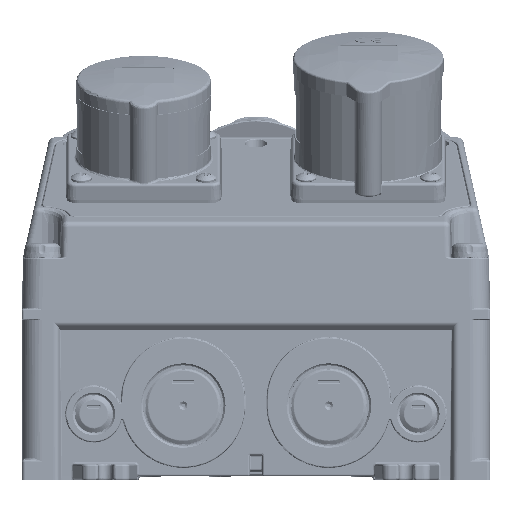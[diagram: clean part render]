
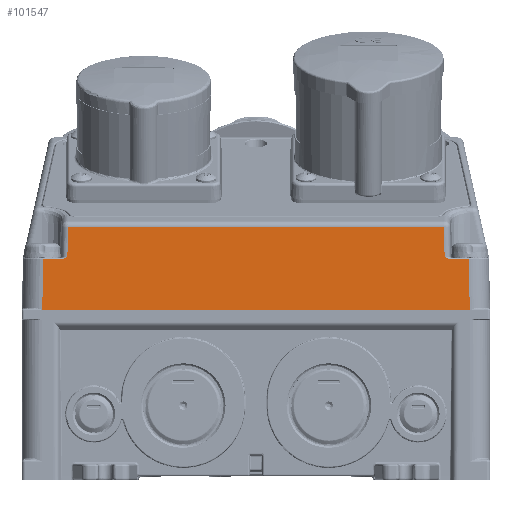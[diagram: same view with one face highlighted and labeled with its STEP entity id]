
A CAD part, front view. The second image highlights one B-rep face of the part: STEP entity #101547.
In plain terms, the highlighted planar face has unit normal (0, -1, 0.018).
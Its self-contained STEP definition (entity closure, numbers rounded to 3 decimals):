
#8586=DIRECTION('',(1.,0.,0.));
#8587=VECTOR('',#8586,223.);
#8588=CARTESIAN_POINT('',(1.,0.,82.));
#8589=LINE('44195',#8588,#8587);
#8757=DIRECTION('',(-0.012,0.017,1.));
#8758=VECTOR('',#8757,0.059);
#8759=CARTESIAN_POINT('',(224.,0.,82.));
#8760=LINE('44237',#8759,#8758);
#8776=CARTESIAN_POINT('',(223.999,0.001,82.059));
#8831=CARTESIAN_POINT('',(215.25,0.001,82.059));
#8842=DIRECTION('',(-1.,0.,0.));
#8843=VECTOR('',#8842,8.749);
#8844=CARTESIAN_POINT('',(223.999,0.001,82.059));
#8845=LINE('44254',#8844,#8843);
#8846=DIRECTION('',(0.017,0.017,1.));
#8847=VECTOR('',#8846,24.457);
#8848=CARTESIAN_POINT('',(9.75,0.001,82.059));
#8849=LINE('44256',#8848,#8847);
#8850=DIRECTION('',(0.009,0.017,1.));
#8851=VECTOR('',#8850,14.45);
#8852=CARTESIAN_POINT('',(21.854,0.445,107.491));
#8853=LINE('44259',#8852,#8851);
#8854=DIRECTION('',(0.009,-0.017,-1.));
#8855=VECTOR('',#8854,14.45);
#8856=CARTESIAN_POINT('',(203.02,0.697,121.939));
#8857=LINE('44261',#8856,#8855);
#8858=DIRECTION('',(0.017,-0.017,-1.));
#8859=VECTOR('',#8858,24.457);
#8860=CARTESIAN_POINT('',(214.824,0.428,106.509));
#8861=LINE('44264',#8860,#8859);
#8869=DIRECTION('',(-1.,0.,0.));
#8870=VECTOR('',#8869,8.749);
#8871=CARTESIAN_POINT('',(9.75,0.001,82.059));
#8872=LINE('44255',#8871,#8870);
#8982=DIRECTION('',(-0.012,-0.017,-1.));
#8983=VECTOR('',#8982,0.059);
#8984=CARTESIAN_POINT('',(1.001,0.001,82.059));
#8985=LINE('44265',#8984,#8983);
#9866=CARTESIAN_POINT('',(205.578,0.428,106.509));
#9867=CARTESIAN_POINT('',(205.518,0.428,106.509));
#9868=CARTESIAN_POINT('',(205.394,0.428,106.514));
#9869=CARTESIAN_POINT('',(205.196,0.428,106.539));
#9870=CARTESIAN_POINT('',(204.979,0.429,106.584));
#9871=CARTESIAN_POINT('',(204.739,0.43,106.653));
#9872=CARTESIAN_POINT('',(204.474,0.432,106.752));
#9873=CARTESIAN_POINT('',(204.184,0.434,106.883));
#9874=CARTESIAN_POINT('',(203.869,0.437,107.049));
#9875=CARTESIAN_POINT('',(203.526,0.441,107.252));
#9876=CARTESIAN_POINT('',(203.277,0.443,107.409));
#9877=CARTESIAN_POINT('',(203.146,0.445,107.491));
#9883=DIRECTION('',(-1.,0.,0.));
#9884=VECTOR('',#9883,9.246);
#9885=CARTESIAN_POINT('',(214.824,0.428,106.509));
#9886=LINE('44263',#9885,#9884);
#9919=DIRECTION('',(-1.,0.,0.));
#9920=VECTOR('',#9919,181.04);
#9921=CARTESIAN_POINT('',(203.02,0.697,121.939));
#9922=LINE('44260',#9921,#9920);
#10310=CARTESIAN_POINT('',(21.854,0.445,
107.491));
#10311=CARTESIAN_POINT('',(21.723,0.443,
107.409));
#10312=CARTESIAN_POINT('',(21.474,0.441,
107.252));
#10313=CARTESIAN_POINT('',(21.131,0.437,
107.05));
#10314=CARTESIAN_POINT('',(20.816,0.434,
106.883));
#10315=CARTESIAN_POINT('',(20.526,0.432,
106.752));
#10316=CARTESIAN_POINT('',(20.261,0.43,
106.653));
#10317=CARTESIAN_POINT('',(20.022,0.429,
106.584));
#10318=CARTESIAN_POINT('',(19.804,0.428,
106.539));
#10319=CARTESIAN_POINT('',(19.605,0.428,
106.514));
#10320=CARTESIAN_POINT('',(19.482,0.428,
106.509));
#10321=CARTESIAN_POINT('',(19.422,0.428,
106.509));
#10332=DIRECTION('',(-1.,0.,0.));
#10333=VECTOR('',#10332,9.246);
#10334=CARTESIAN_POINT('',(19.422,0.428,
106.509));
#10335=LINE('44257',#10334,#10333);
#73115=CARTESIAN_POINT('',(1.,0.,
82.));
#73116=VERTEX_POINT('',#73115);
#73117=CARTESIAN_POINT('',(224.,0.,
82.));
#73118=VERTEX_POINT('',#73117);
#73164=VERTEX_POINT('',#8776);
#73182=VERTEX_POINT('',#8831);
#73183=CARTESIAN_POINT('',(9.75,0.001,
82.059));
#73184=CARTESIAN_POINT('',(1.001,0.001,
82.059));
#73185=VERTEX_POINT('',#73183);
#73186=VERTEX_POINT('',#73184);
#73187=CARTESIAN_POINT('',(10.176,0.428,
106.509));
#73188=VERTEX_POINT('',#73187);
#73189=CARTESIAN_POINT('',(19.422,0.428,
106.509));
#73190=VERTEX_POINT('',#73189);
#73191=VERTEX_POINT('',#10310);
#73192=CARTESIAN_POINT('',(21.98,0.697,
121.939));
#73193=VERTEX_POINT('',#73192);
#73194=CARTESIAN_POINT('',(203.02,0.697,
121.939));
#73195=VERTEX_POINT('',#73194);
#73196=CARTESIAN_POINT('',(203.146,0.445,
107.491));
#73197=VERTEX_POINT('',#73196);
#73198=VERTEX_POINT('',#9866);
#73199=CARTESIAN_POINT('',(214.824,0.428,
106.509));
#73200=VERTEX_POINT('',#73199);
#101515=CARTESIAN_POINT('',(0.,0.733,124.));
#101516=DIRECTION('',(0.,-1.,0.017));
#101517=DIRECTION('',(0.,-0.017,-1.));
#101518=AXIS2_PLACEMENT_3D('',#101515,#101516,#101517);
#101519=PLANE('55587',#101518);
#101521=ORIENTED_EDGE('44255',*,*,#101520,.F.);
#101523=ORIENTED_EDGE('44256',*,*,#101522,.T.);
#101525=ORIENTED_EDGE('44257',*,*,#101524,.F.);
#101527=ORIENTED_EDGE('44258',*,*,#101526,.F.);
#101529=ORIENTED_EDGE('44259',*,*,#101528,.T.);
#101531=ORIENTED_EDGE('44260',*,*,#101530,.F.);
#101533=ORIENTED_EDGE('44261',*,*,#101532,.T.);
#101535=ORIENTED_EDGE('44262',*,*,#101534,.F.);
#101537=ORIENTED_EDGE('44263',*,*,#101536,.F.);
#101539=ORIENTED_EDGE('44264',*,*,#101538,.T.);
#101540=ORIENTED_EDGE('44254',*,*,#101503,.F.);
#101541=ORIENTED_EDGE('44237',*,*,#101327,.F.);
#101542=ORIENTED_EDGE('44195',*,*,#100937,.F.);
#101544=ORIENTED_EDGE('44265',*,*,#101543,.F.);
#101545=EDGE_LOOP('55587',(#101521,#101523,#101525,#101527,#101529,#101531,
#101533,#101535,#101537,#101539,#101540,#101541,#101542,#101544));
#101546=FACE_OUTER_BOUND('55587',#101545,.F.);
#9878=B_SPLINE_CURVE_WITH_KNOTS('44262',3,(#9866,#9867,#9868,#9869,#9870,#9871,
#9872,#9873,#9874,#9875,#9876,#9877),.UNSPECIFIED.,.F.,.F.,(4,1,1,1,1,1,1,1,1,
4),(0.,0.111,0.222,0.333,
0.444,0.556,0.667,0.778,
0.889,1.),.UNSPECIFIED.);
#10322=B_SPLINE_CURVE_WITH_KNOTS('44258',3,(#10310,#10311,#10312,#10313,#10314,
#10315,#10316,#10317,#10318,#10319,#10320,#10321),.UNSPECIFIED.,.F.,.F.,(4,1,1,
1,1,1,1,1,1,4),(0.,0.111,0.222,0.333,
0.444,0.556,0.667,0.778,
0.889,1.),.UNSPECIFIED.);
#100937=EDGE_CURVE('44195',#73116,#73118,#8589,.T.);
#101327=EDGE_CURVE('44237',#73118,#73164,#8760,.T.);
#101503=EDGE_CURVE('44254',#73164,#73182,#8845,.T.);
#101520=EDGE_CURVE('44255',#73185,#73186,#8872,.T.);
#101522=EDGE_CURVE('44256',#73185,#73188,#8849,.T.);
#101524=EDGE_CURVE('44257',#73190,#73188,#10335,.T.);
#101526=EDGE_CURVE('44258',#73191,#73190,#10322,.T.);
#101528=EDGE_CURVE('44259',#73191,#73193,#8853,.T.);
#101530=EDGE_CURVE('44260',#73195,#73193,#9922,.T.);
#101532=EDGE_CURVE('44261',#73195,#73197,#8857,.T.);
#101534=EDGE_CURVE('44262',#73198,#73197,#9878,.T.);
#101536=EDGE_CURVE('44263',#73200,#73198,#9886,.T.);
#101538=EDGE_CURVE('44264',#73200,#73182,#8861,.T.);
#101543=EDGE_CURVE('44265',#73186,#73116,#8985,.T.);
#101547=ADVANCED_FACE('55587',(#101546),#101519,.T.);
